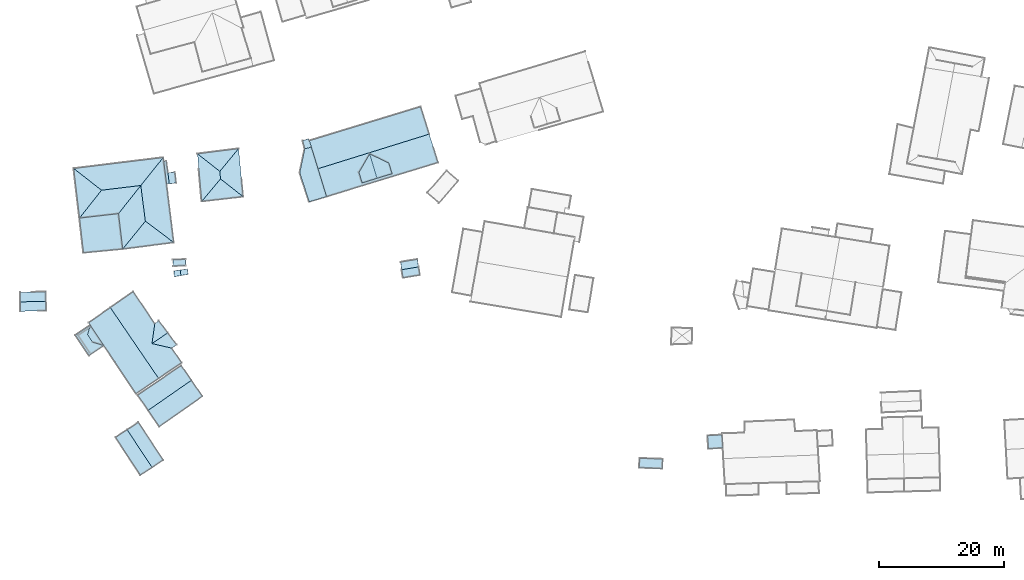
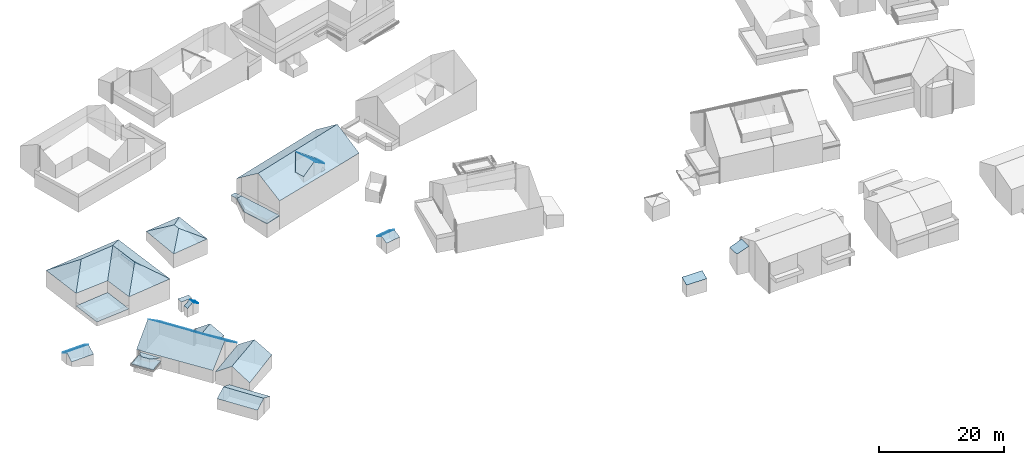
# Not in any storey, part 51 of 57: 77 roofs.
"""IFC2X3 building model written with IfcOpenShell, lengths in metres."""

import ifcopenshell
import ifcopenshell.guid

model = None  # the IFC model being written
_history = None  # IfcOwnerHistory: only IFC2X3 demands one
_inside = {}  # id of a spatial element -> (the spatial element, [elements in it])
_under = {}  # id of a project, library or spatial element -> (it, [spatial elements below it])
_declared = {}  # id of a project -> (the project, [libraries it declares])
_typed = {}  # id of a type object -> (the type object, [elements of that type])
_made_of = {}  # id of a material, layer set ... -> (it, [elements and type objects made of it])


def new_model(schema):
    """Start an empty IFC model of exactly this schema.

    Asked for "IFC4X3", IfcOpenShell would pick the latest addendum, in which some entities
    have other attributes; the version numbers below select the first issue.
    IFC2X3 requires an IfcOwnerHistory on every rooted entity: one is made here for all.
    """
    global model, _history
    if schema == "IFC4X3":
        model = ifcopenshell.file(schema_version=(4, 3, 0, 0))
    else:
        model = ifcopenshell.file(schema=schema)
    _inside.clear()
    _under.clear()
    _declared.clear()
    _typed.clear()
    _made_of.clear()
    _history = None
    if model.schema == "IFC2X3":
        org = make("IfcOrganization", Name="unknown")
        user = make(
            "IfcPersonAndOrganization",
            ThePerson=make("IfcPerson", FamilyName="unknown"),
            TheOrganization=org,
        )
        app = make(
            "IfcApplication",
            ApplicationDeveloper=org,
            Version="unknown",
            ApplicationFullName="unknown",
            ApplicationIdentifier="unknown",
        )
        _history = make(
            "IfcOwnerHistory",
            OwningUser=user,
            OwningApplication=app,
            ChangeAction="ADDED",
            CreationDate=0,
        )
    return model


def make(cls, **values):
    """One entity of the class cls with the attributes given. An attribute that is None is left unset."""
    return model.create_entity(
        cls, **{name: value for name, value in values.items() if value is not None}
    )


def entity(cls, *values):
    """Any entity or typed value of the class cls, its attributes in the order of the schema. None: left unset."""
    e = model.create_entity(cls)
    for i, value in enumerate(values):
        if value is not None:
            e[i] = value
    return e


def rooted(cls, **values):
    """An entity with a GlobalId (a new one), such as an element, a storey or a relation."""
    return make(cls, GlobalId=ifcopenshell.guid.new(), OwnerHistory=_history, **values)


def si_unit(unit_type, name, prefix=None):
    """IfcSIUnit, for example si_unit("LENGTHUNIT", "METRE", prefix="MILLI")."""
    return make("IfcSIUnit", UnitType=unit_type, Prefix=prefix, Name=name)


def converted_unit(unit_type, name, factor, base, dimensions=None, offset=None):
    """IfcConversionBasedUnit, such as the inch: factor (a typed value) times the base unit."""
    return make(
        "IfcConversionBasedUnit"
        if offset is None
        else "IfcConversionBasedUnitWithOffset",
        ConversionOffset=offset,
        Dimensions=None
        if dimensions is None
        else entity("IfcDimensionalExponents", *dimensions),
        UnitType=unit_type,
        Name=name,
        ConversionFactor=make(
            "IfcMeasureWithUnit", ValueComponent=factor, UnitComponent=base
        ),
    )


def assignment(units):
    """IfcUnitAssignment: the units of a project."""
    return None if units is None else make("IfcUnitAssignment", Units=units)


def point(xyz):
    """IfcCartesianPoint."""
    return None if xyz is None else make("IfcCartesianPoint", Coordinates=xyz)


def direction(xyz):
    """IfcDirection."""
    return None if xyz is None else make("IfcDirection", DirectionRatios=xyz)


def frame(location, z_axis=None, x_axis=None):
    """IfcAxis2Placement3D, a coordinate frame: its origin and axes. An axis left out is left unset."""
    return make(
        "IfcAxis2Placement3D",
        Location=point(location),
        Axis=direction(z_axis),
        RefDirection=direction(x_axis),
    )


def origin():
    """The frame at (0, 0, 0) with its axes left unset."""
    return frame((0.0, 0.0, 0.0))


def place(relative_to, where):
    """IfcLocalPlacement: puts the frame where relative to a parent placement (None: the world)."""
    return make(
        "IfcLocalPlacement", PlacementRelTo=relative_to, RelativePlacement=where
    )


def context(
    kind, dimensions, precision=None, world=None, true_north=None, identifier=None
):
    """IfcGeometricRepresentationContext, for example the 3D "Model" context."""
    return make(
        "IfcGeometricRepresentationContext",
        ContextIdentifier=identifier,
        ContextType=kind,
        CoordinateSpaceDimension=dimensions,
        Precision=precision,
        WorldCoordinateSystem=world,
        TrueNorth=true_north,
    )


def subcontext(parent, identifier, kind, view, scale=None):
    """IfcGeometricRepresentationSubContext, for example "Body" below "Model"."""
    return make(
        "IfcGeometricRepresentationSubContext",
        ContextIdentifier=identifier,
        ContextType=kind,
        ParentContext=parent,
        TargetScale=scale,
        TargetView=view,
    )


def project(units=None, contexts=None):
    """IfcProject with its units and contexts."""
    return rooted(
        "IfcProject",
        Name="project",
        RepresentationContexts=contexts,
        UnitsInContext=assignment(units),
    )


def spatial(cls, under=None, at=None, **own):
    """A site, building, storey or space (cls), placed at a placement, below another one or the project."""
    s = rooted(cls, ObjectPlacement=at, **own)
    if under is not None:
        _under.setdefault(under.id(), (under, []))[1].append(s)
    return s


def faces_of(points, faces, orient=None, outer=None):
    """IfcFace entities. A face is a list of loops; a loop is a list of indices into points, from 0.

    orient and outer hold one flag for each loop. By default every Orientation is true, the
    first loop of a face is its IfcFaceOuterBound and the others are IfcFaceBound.
    """
    made = []
    for i, loops in enumerate(faces):
        bounds = []
        for j, loop in enumerate(loops):
            is_outer = j == 0 if outer is None else outer[i][j]
            bounds.append(
                make(
                    "IfcFaceOuterBound" if is_outer else "IfcFaceBound",
                    Bound=make("IfcPolyLoop", Polygon=[points[k] for k in loop]),
                    Orientation=True if orient is None else orient[i][j],
                )
            )
        made.append(make("IfcFace", Bounds=bounds))
    return made


def face_set(faces, orient=None, outer=None):
    """The faces of one IfcConnectedFaceSet. surface_model builds it on its shared points."""
    return ("IfcConnectedFaceSet", faces, orient, outer)


def surface_model(cls, points, shells):
    """IfcFaceBasedSurfaceModel or IfcShellBasedSurfaceModel (cls): surfaces that need not close."""
    shared = [point(p) for p in points]
    made = [make(c, CfsFaces=faces_of(shared, fs, o, b)) for c, fs, o, b in shells]
    if cls == "IfcFaceBasedSurfaceModel":
        return make(cls, FbsmFaces=made)
    return make(cls, SbsmBoundary=made)


def shape(context_of_items, identifier, shape_type, items):
    """IfcShapeRepresentation: the items that make up one representation, for example the "Body"."""
    return make(
        "IfcShapeRepresentation",
        ContextOfItems=context_of_items,
        RepresentationIdentifier=identifier,
        RepresentationType=shape_type,
        Items=items,
    )


def made_of(thing, what):
    """Note that an element or type object is made of a material, layer set ...; save() writes the relation."""
    if what is not None:
        _made_of.setdefault(what.id(), (what, []))[1].append(thing)
    return thing


def element(
    cls,
    number,
    at=None,
    inside=None,
    cuts=None,
    type_object=None,
    material=None,
    context=None,
    identifier="Body",
    shape_type=None,
    held_by="IfcProductDefinitionShape",
    body=None,
    shapes=None,
    **own,
):
    """One element of the class cls, such as IfcWall. Its Tag is "e" and its number.

    at: its placement. inside: the storey or other place that contains it. cuts: it is an
    opening in that element (IfcRelVoidsElement). A single representation is given by context,
    identifier, shape_type and body (its items); several are given by shapes. held_by: the class
    of the entity that holds the representations. save() writes the other relations.
    """
    e = rooted(cls, Tag="e%d" % number, ObjectPlacement=at, **own)
    if body is not None:
        shapes = [shape(context, identifier, shape_type, body)]
    if shapes is not None:
        e.Representation = make(held_by, Representations=shapes)
    if inside is not None:
        _inside.setdefault(inside.id(), (inside, []))[1].append(e)
    if cuts is not None:
        rooted(
            "IfcRelVoidsElement", RelatingBuildingElement=cuts, RelatedOpeningElement=e
        )
    if type_object is not None:
        _typed.setdefault(type_object.id(), (type_object, []))[1].append(e)
    return made_of(e, material)


def aggregate(whole, parts):
    """IfcRelAggregates: a whole, such as a stair, and the parts it consists of."""
    return rooted("IfcRelAggregates", RelatingObject=whole, RelatedObjects=parts)


def save(model, path):
    """Write the relations noted so far, then the file.

    IfcRelAggregates (storeys below a building ...), IfcRelContainedInSpatialStructure (elements
    in a storey), IfcRelDefinesByType, IfcRelAssociatesMaterial and IfcRelDeclares: one each for
    every whole, place, type object, material and project.
    """
    for whole, parts in _under.values():
        aggregate(whole, parts)
    for where, things in _inside.values():
        rooted(
            "IfcRelContainedInSpatialStructure",
            RelatedElements=things,
            RelatingStructure=where,
        )
    for kind, things in _typed.values():
        rooted("IfcRelDefinesByType", RelatedObjects=things, RelatingType=kind)
    for what, things in _made_of.values():
        rooted("IfcRelAssociatesMaterial", RelatedObjects=things, RelatingMaterial=what)
    for by, libraries in _declared.values():
        rooted("IfcRelDeclares", RelatingContext=by, RelatedDefinitions=libraries)
    model.write(path)


model = new_model("IFC2X3")

# Units and contexts
model_context = context("Model", 3, precision=1e-05, world=origin())
body_context = subcontext(model_context, "Body", "Model", "MODEL_VIEW")
ifc_project = project(units=[converted_unit("PLANEANGLEUNIT", "DEGREE", entity("IfcRatioMeasure", 0.0174532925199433), si_unit("PLANEANGLEUNIT", "RADIAN"), dimensions=[0, 0, 0, 0, 0, 0, 0]), si_unit("AREAUNIT", "SQUARE_METRE"), si_unit("LENGTHUNIT", "METRE")], contexts=[model_context])

# Site, building
site_placement = place(None, origin())
site = spatial("IfcSite", under=ifc_project, at=site_placement, Name="_site", CompositionType="ELEMENT")
building_1_placement = place(site_placement, origin())
building_1 = spatial("IfcBuilding", under=site, at=building_1_placement, Name="_building", CompositionType="ELEMENT")

# Roofs
roof_1_placement = place(building_1_placement, origin())
element("IfcRoof", 1, at=roof_1_placement, inside=building_1, Name="Roof", ShapeType="NOTDEFINED", context=body_context, shape_type="SurfaceModel", body=[
    surface_model("IfcFaceBasedSurfaceModel", [(76.452, 88.018, 115.16), (76.487, 86.506, 114.25), (80.602, 86.62, 114.25), (80.557, 88.122, 115.16)], [face_set([[[0, 1, 2, 3]]])]),
])
roof_2_placement = place(building_1_placement, origin())
element("IfcRoof", 2, at=roof_2_placement, inside=building_1, Name="Roof", ShapeType="NOTDEFINED", context=body_context, shape_type="SurfaceModel", body=[
    surface_model("IfcFaceBasedSurfaceModel", [(80.557, 88.122, 115.16), (80.523, 89.644, 114.25), (76.408, 89.53, 114.25), (76.452, 88.018, 115.16)], [face_set([[[0, 1, 2, 3]]])]),
])
roof_3_placement = place(building_1_placement, origin())
element("IfcRoof", 3, at=roof_3_placement, inside=building_1, Name="Roof", ShapeType="NOTDEFINED", context=body_context, shape_type="SurfaceModel", body=[
    surface_model("IfcFaceBasedSurfaceModel", [(76.452, 88.018, 115.16), (76.487, 86.506, 114.25), (80.602, 86.62, 114.25), (80.557, 88.122, 115.16)], [face_set([[[0, 1, 2, 3]]])]),
])
roof_4_placement = place(building_1_placement, origin())
element("IfcRoof", 4, at=roof_4_placement, inside=building_1, Name="Roof", ShapeType="NOTDEFINED", context=body_context, shape_type="SurfaceModel", body=[
    surface_model("IfcFaceBasedSurfaceModel", [(80.557, 88.122, 115.16), (80.523, 89.644, 114.25), (76.408, 89.53, 114.25), (76.452, 88.018, 115.16)], [face_set([[[0, 1, 2, 3]]])]),
])

# Building
building_2_placement = place(site_placement, origin())
building_2 = spatial("IfcBuilding", under=site, at=building_2_placement, Name="_building", CompositionType="ELEMENT")

# Roofs
roof_5_placement = place(building_2_placement, origin())
element("IfcRoof", 5, at=roof_5_placement, inside=building_2, Name="Roof", ShapeType="NOTDEFINED", context=body_context, shape_type="SurfaceModel", body=[
    surface_model("IfcFaceBasedSurfaceModel", [(93.525, 67.596, 114.93), (91.675, 66.378, 113.98), (95.647, 60.361, 113.98), (97.497, 61.579, 114.93)], [face_set([[[0, 1, 2, 3]]])]),
])
roof_6_placement = place(building_2_placement, origin())
element("IfcRoof", 6, at=roof_6_placement, inside=building_2, Name="Roof", ShapeType="NOTDEFINED", context=body_context, shape_type="SurfaceModel", body=[
    surface_model("IfcFaceBasedSurfaceModel", [(97.497, 61.579, 114.93), (99.296, 62.768, 113.98), (95.324, 68.784, 113.98), (93.525, 67.596, 114.93)], [face_set([[[0, 1, 2, 3]]])]),
])
roof_7_placement = place(building_2_placement, origin())
element("IfcRoof", 7, at=roof_7_placement, inside=building_2, Name="Roof", ShapeType="NOTDEFINED", context=body_context, shape_type="SurfaceModel", body=[
    surface_model("IfcFaceBasedSurfaceModel", [(93.525, 67.596, 114.93), (91.675, 66.378, 113.98), (95.647, 60.361, 113.98), (97.497, 61.579, 114.93)], [face_set([[[0, 1, 2, 3]]])]),
])
roof_8_placement = place(building_2_placement, origin())
element("IfcRoof", 8, at=roof_8_placement, inside=building_2, Name="Roof", ShapeType="NOTDEFINED", context=body_context, shape_type="SurfaceModel", body=[
    surface_model("IfcFaceBasedSurfaceModel", [(97.497, 61.579, 114.93), (99.296, 62.768, 113.98), (95.324, 68.784, 113.98), (93.525, 67.596, 114.93)], [face_set([[[0, 1, 2, 3]]])]),
])

# Building
building_3_placement = place(site_placement, origin())
building_3 = spatial("IfcBuilding", under=site, at=building_3_placement, Name="_building", CompositionType="ELEMENT")

# Roofs
for number, where, name in (
    (9, (0.0, 0.0, 0.0), "Roof"),
    (10, (0.0, 0.0, 0.0), "Roof"),
):
    element("IfcRoof", number, at=place(building_3_placement, frame(where)), inside=building_3, Name=name, ShapeType="NOTDEFINED", context=body_context, shape_type="SurfaceModel", body=[
        surface_model("IfcFaceBasedSurfaceModel", [(100.861, 93.72, 113.01), (102.874, 93.813, 113.01), (102.847, 94.805, 113.01), (100.815, 94.762, 113.01)], [face_set([[[0, 1, 2, 3]]])]),
    ])

# Building
building_4_placement = place(site_placement, origin())
building_4 = spatial("IfcBuilding", under=site, at=building_4_placement, Name="_building", CompositionType="ELEMENT")

# Roofs
roof_9_placement = place(building_4_placement, origin())
element("IfcRoof", 11, at=roof_9_placement, inside=building_4, Name="Roof", ShapeType="NOTDEFINED", context=body_context, shape_type="SurfaceModel", body=[
    surface_model("IfcFaceBasedSurfaceModel", [(121.882, 112.46, 114.43), (122.94, 112.745, 114.43), (122.623, 113.763, 114.36), (122.501, 114.087, 114.36), (121.553, 113.779, 114.39)], [face_set([[[0, 1, 2, 3, 4]]])]),
])
roof_10_placement = place(building_4_placement, origin())
element("IfcRoof", 12, at=roof_10_placement, inside=building_4, Name="Roof", ShapeType="NOTDEFINED", context=body_context, shape_type="SurfaceModel", body=[
    surface_model("IfcFaceBasedSurfaceModel", [(132.25, 111.657, 120.386), (130.54, 108.705, 118.8), (131.051, 107.022, 118.8), (133.419, 107.757, 120.39)], [face_set([[[0, 1, 2, 3]]])]),
])
roof_11_placement = place(building_4_placement, origin())
element("IfcRoof", 13, at=roof_11_placement, inside=building_4, Name="Roof", ShapeType="NOTDEFINED", context=body_context, shape_type="SurfaceModel", body=[
    surface_model("IfcFaceBasedSurfaceModel", [(124.001, 109.289, 120.52), (125.376, 104.833, 117.37), (143.174, 110.28, 117.15), (141.77, 114.816, 120.52)], [face_set([[[0, 1, 2, 3]]])]),
])
roof_12_placement = place(building_4_placement, origin())
element("IfcRoof", 14, at=roof_12_placement, inside=building_4, Name="Roof", ShapeType="NOTDEFINED", context=body_context, shape_type="SurfaceModel", body=[
    surface_model("IfcFaceBasedSurfaceModel", [(141.77, 114.816, 120.52), (140.401, 119.191, 117.29), (122.623, 113.763, 117.28), (122.94, 112.745, 118.02), (124.001, 109.289, 120.52)], [face_set([[[0, 1, 2, 3, 4]]])]),
])
roof_13_placement = place(building_4_placement, origin())
element("IfcRoof", 15, at=roof_13_placement, inside=building_4, Name="Roof", ShapeType="NOTDEFINED", context=body_context, shape_type="SurfaceModel", body=[
    surface_model("IfcFaceBasedSurfaceModel", [(121.882, 112.46, 114.43), (122.94, 112.745, 114.43), (122.623, 113.763, 114.36), (122.501, 114.087, 114.36), (121.553, 113.779, 114.39)], [face_set([[[0, 1, 2, 3, 4]]])]),
])
roof_14_placement = place(building_4_placement, origin())
element("IfcRoof", 16, at=roof_14_placement, inside=building_4, Name="Roof", ShapeType="NOTDEFINED", context=body_context, shape_type="SurfaceModel", body=[
    surface_model("IfcFaceBasedSurfaceModel", [(141.77, 114.816, 120.52), (140.401, 119.191, 117.29), (122.623, 113.763, 117.28), (122.94, 112.745, 118.02), (124.001, 109.289, 120.52)], [face_set([[[0, 1, 2, 3, 4]]])]),
])
roof_15_placement = place(building_4_placement, origin())
element("IfcRoof", 17, at=roof_15_placement, inside=building_4, Name="Roof", ShapeType="NOTDEFINED", context=body_context, shape_type="SurfaceModel", body=[
    surface_model("IfcFaceBasedSurfaceModel", [(124.001, 109.289, 120.52), (125.376, 104.833, 117.37), (143.174, 110.28, 117.15), (141.77, 114.816, 120.52)], [face_set([[[0, 1, 2, 3]]])]),
])
roof_16_placement = place(building_4_placement, origin())
element("IfcRoof", 18, at=roof_16_placement, inside=building_4, Name="Roof", ShapeType="NOTDEFINED", context=body_context, shape_type="SurfaceModel", body=[
    surface_model("IfcFaceBasedSurfaceModel", [(132.25, 111.657, 120.386), (130.54, 108.705, 118.8), (131.051, 107.022, 118.8), (133.419, 107.757, 120.39)], [face_set([[[0, 1, 2, 3]]])]),
])
roof_17_placement = place(building_4_placement, origin())
element("IfcRoof", 19, at=roof_17_placement, inside=building_4, Name="Roof", ShapeType="NOTDEFINED", context=body_context, shape_type="SurfaceModel", body=[
    surface_model("IfcFaceBasedSurfaceModel", [(132.25, 111.657, 120.386), (133.419, 107.757, 120.39), (135.828, 108.491, 118.78), (135.318, 110.194, 118.793)], [face_set([[[0, 1, 2, 3]]])]),
])
roof_18_placement = place(building_4_placement, origin())
element("IfcRoof", 20, at=roof_18_placement, inside=building_4, Name="Roof", ShapeType="NOTDEFINED", context=body_context, shape_type="SurfaceModel", body=[
    surface_model("IfcFaceBasedSurfaceModel", [(133.419, 107.757, 117.57), (135.828, 108.491, 117.558), (135.318, 110.194, 118.793), (132.25, 111.657, 120.399), (130.54, 108.705, 118.796), (131.051, 107.022, 117.574)], [face_set([[[0, 1, 2, 3, 4, 5]]])]),
])
roof_19_placement = place(building_4_placement, origin())
element("IfcRoof", 21, at=roof_19_placement, inside=building_4, Name="Roof", ShapeType="NOTDEFINED", context=body_context, shape_type="SurfaceModel", body=[
    surface_model("IfcFaceBasedSurfaceModel", [(132.25, 111.657, 120.386), (133.419, 107.757, 120.39), (135.828, 108.491, 118.78), (135.318, 110.194, 118.793)], [face_set([[[0, 1, 2, 3]]])]),
])

# Building
building_5_placement = place(site_placement, origin())
building_5 = spatial("IfcBuilding", under=site, at=building_5_placement, Name="_building", CompositionType="ELEMENT")

# Roofs
roof_20_placement = place(building_5_placement, origin())
element("IfcRoof", 22, at=roof_20_placement, inside=building_5, Name="Roof", ShapeType="NOTDEFINED", context=body_context, shape_type="SurfaceModel", body=[
    surface_model("IfcFaceBasedSurfaceModel", [(124.001, 109.289, 114.491), (122.94, 112.745, 114.43), (121.882, 112.46, 114.43), (121.083, 108.666, 114.43), (122.585, 103.998, 114.45), (125.376, 104.833, 114.57)], [face_set([[[0, 1, 2, 3, 4, 5]]])]),
])
for number, where, name in (
    (23, (0.0, 0.0, 0.0), "Roof"),
    (24, (0.0, 0.0, 0.0), "Roof"),
):
    element("IfcRoof", number, at=place(building_5_placement, frame(where)), inside=building_5, Name=name, ShapeType="NOTDEFINED", context=body_context, shape_type="SurfaceModel", body=[
        surface_model("IfcFaceBasedSurfaceModel", [(125.376, 104.833, 114.36), (124.001, 109.289, 114.36), (122.94, 112.745, 114.36), (121.882, 112.46, 114.36), (121.083, 108.666, 114.36), (122.585, 103.998, 114.36)], [face_set([[[0, 1, 2, 3, 4, 5]]])]),
    ])
roof_21_placement = place(building_5_placement, origin())
element("IfcRoof", 25, at=roof_21_placement, inside=building_5, Name="Roof", ShapeType="NOTDEFINED", context=body_context, shape_type="SurfaceModel", body=[
    surface_model("IfcFaceBasedSurfaceModel", [(124.001, 109.289, 114.491), (122.94, 112.745, 114.43), (121.882, 112.46, 114.43), (121.083, 108.666, 114.43), (122.585, 103.998, 114.45), (125.376, 104.833, 114.57)], [face_set([[[0, 1, 2, 3, 4, 5]]])]),
])

# Building
building_6_placement = place(site_placement, origin())
building_6 = spatial("IfcBuilding", under=site, at=building_6_placement, Name="_building", CompositionType="ELEMENT")

# Roofs
for number, where, name in (
    (26, (0.0, 0.0, 0.0), "Roof"),
    (27, (0.0, 0.0, 0.0), "Roof"),
):
    element("IfcRoof", number, at=place(building_6_placement, frame(where)), inside=building_6, Name=name, ShapeType="NOTDEFINED", context=body_context, shape_type="SurfaceModel", body=[
        surface_model("IfcFaceBasedSurfaceModel", [(175.283, 61.519, 109.73), (178.993, 61.402, 109.81), (179.029, 62.922, 110.44), (175.389, 63.048, 110.37)], [face_set([[[0, 1, 2, 3]]])]),
    ])

# Building
building_7_placement = place(site_placement, origin())
building_7 = spatial("IfcBuilding", under=site, at=building_7_placement, Name="_building", CompositionType="ELEMENT")

# Roofs
roof_22_placement = place(building_7_placement, origin())
element("IfcRoof", 28, at=roof_22_placement, inside=building_7, Name="Roof", ShapeType="NOTDEFINED", context=body_context, shape_type="SurfaceModel", body=[
    surface_model("IfcFaceBasedSurfaceModel", [(137.37, 93.166, 113.38), (137.58, 91.87, 112.7), (140.282, 92.307, 112.7), (140.072, 93.603, 113.38)], [face_set([[[0, 1, 2, 3]]])]),
])
roof_23_placement = place(building_7_placement, origin())
element("IfcRoof", 29, at=roof_23_placement, inside=building_7, Name="Roof", ShapeType="NOTDEFINED", context=body_context, shape_type="SurfaceModel", body=[
    surface_model("IfcFaceBasedSurfaceModel", [(140.072, 93.603, 113.38), (139.871, 94.828, 112.7), (137.179, 94.381, 112.7), (137.37, 93.166, 113.38)], [face_set([[[0, 1, 2, 3]]])]),
])
roof_24_placement = place(building_7_placement, origin())
element("IfcRoof", 30, at=roof_24_placement, inside=building_7, Name="Roof", ShapeType="NOTDEFINED", context=body_context, shape_type="SurfaceModel", body=[
    surface_model("IfcFaceBasedSurfaceModel", [(137.37, 93.166, 113.38), (137.58, 91.87, 112.7), (140.282, 92.307, 112.7), (140.072, 93.603, 113.38)], [face_set([[[0, 1, 2, 3]]])]),
])
roof_25_placement = place(building_7_placement, origin())
element("IfcRoof", 31, at=roof_25_placement, inside=building_7, Name="Roof", ShapeType="NOTDEFINED", context=body_context, shape_type="SurfaceModel", body=[
    surface_model("IfcFaceBasedSurfaceModel", [(140.072, 93.603, 113.38), (139.871, 94.828, 112.7), (137.179, 94.381, 112.7), (137.37, 93.166, 113.38)], [face_set([[[0, 1, 2, 3]]])]),
])

# Building
building_8_placement = place(site_placement, origin())
building_8 = spatial("IfcBuilding", under=site, at=building_8_placement, Name="_building", CompositionType="ELEMENT")

# Roofs
roof_26_placement = place(building_8_placement, origin())
element("IfcRoof", 32, at=roof_26_placement, inside=building_8, Name="Roof", ShapeType="NOTDEFINED", context=body_context, shape_type="SurfaceModel", body=[
    surface_model("IfcFaceBasedSurfaceModel", [(96.89, 70.709, 115.81), (98.67, 68.106, 113.56), (105.548, 72.948, 113.7), (103.786, 75.501, 115.71)], [face_set([[[0, 1, 2, 3]]])]),
])
roof_27_placement = place(building_8_placement, origin())
element("IfcRoof", 33, at=roof_27_placement, inside=building_8, Name="Roof", ShapeType="NOTDEFINED", context=body_context, shape_type="SurfaceModel", body=[
    surface_model("IfcFaceBasedSurfaceModel", [(103.786, 75.501, 115.71), (102.17, 77.85, 113.93), (95.225, 73.129, 113.84), (96.89, 70.709, 115.81)], [face_set([[[0, 1, 2, 3]]])]),
])
roof_28_placement = place(building_8_placement, origin())
element("IfcRoof", 34, at=roof_28_placement, inside=building_8, Name="Roof", ShapeType="NOTDEFINED", context=body_context, shape_type="SurfaceModel", body=[
    surface_model("IfcFaceBasedSurfaceModel", [(96.89, 70.709, 115.81), (98.67, 68.106, 113.56), (105.548, 72.948, 113.7), (103.786, 75.501, 115.71)], [face_set([[[0, 1, 2, 3]]])]),
])
roof_29_placement = place(building_8_placement, origin())
element("IfcRoof", 35, at=roof_29_placement, inside=building_8, Name="Roof", ShapeType="NOTDEFINED", context=body_context, shape_type="SurfaceModel", body=[
    surface_model("IfcFaceBasedSurfaceModel", [(103.786, 75.501, 115.71), (102.17, 77.85, 113.93), (95.225, 73.129, 113.84), (96.89, 70.709, 115.81)], [face_set([[[0, 1, 2, 3]]])]),
])

# Building
building_9_placement = place(site_placement, origin())
building_9 = spatial("IfcBuilding", under=site, at=building_9_placement, Name="_building", CompositionType="ELEMENT")

# Roofs
roof_30_placement = place(building_9_placement, origin())
element("IfcRoof", 36, at=roof_30_placement, inside=building_9, Name="Roof", ShapeType="NOTDEFINED", context=body_context, shape_type="SurfaceModel", body=[
    surface_model("IfcFaceBasedSurfaceModel", [(112.047, 104.815, 114.65), (111.317, 112.507, 114.53), (108.32, 108.865, 116.24), (108.432, 107.662, 116.25)], [face_set([[[0, 1, 2, 3]]])]),
])
roof_31_placement = place(building_9_placement, origin())
element("IfcRoof", 37, at=roof_31_placement, inside=building_9, Name="Roof", ShapeType="NOTDEFINED", context=body_context, shape_type="SurfaceModel", body=[
    surface_model("IfcFaceBasedSurfaceModel", [(108.32, 108.865, 116.24), (111.317, 112.507, 114.53), (104.753, 111.67, 114.54)], [face_set([[[0, 1, 2]]])]),
])
roof_32_placement = place(building_9_placement, origin())
element("IfcRoof", 38, at=roof_32_placement, inside=building_9, Name="Roof", ShapeType="NOTDEFINED", context=body_context, shape_type="SurfaceModel", body=[
    surface_model("IfcFaceBasedSurfaceModel", [(104.753, 111.67, 114.54), (105.426, 104.06, 114.5), (108.432, 107.662, 116.25), (108.32, 108.865, 116.24)], [face_set([[[0, 1, 2, 3]]])]),
])
roof_33_placement = place(building_9_placement, origin())
element("IfcRoof", 39, at=roof_33_placement, inside=building_9, Name="Roof", ShapeType="NOTDEFINED", context=body_context, shape_type="SurfaceModel", body=[
    surface_model("IfcFaceBasedSurfaceModel", [(112.047, 104.815, 114.65), (111.317, 112.507, 114.53), (108.32, 108.865, 116.24), (108.432, 107.662, 116.25)], [face_set([[[0, 1, 2, 3]]])]),
])
roof_34_placement = place(building_9_placement, origin())
element("IfcRoof", 40, at=roof_34_placement, inside=building_9, Name="Roof", ShapeType="NOTDEFINED", context=body_context, shape_type="SurfaceModel", body=[
    surface_model("IfcFaceBasedSurfaceModel", [(108.32, 108.865, 116.24), (111.317, 112.507, 114.53), (104.753, 111.67, 114.54)], [face_set([[[0, 1, 2]]])]),
])
roof_35_placement = place(building_9_placement, origin())
element("IfcRoof", 41, at=roof_35_placement, inside=building_9, Name="Roof", ShapeType="NOTDEFINED", context=body_context, shape_type="SurfaceModel", body=[
    surface_model("IfcFaceBasedSurfaceModel", [(104.753, 111.67, 114.54), (105.426, 104.06, 114.5), (108.432, 107.662, 116.25), (108.32, 108.865, 116.24)], [face_set([[[0, 1, 2, 3]]])]),
])
for number, where, name in (
    (42, (0.0, 0.0, 0.0), "Roof"),
    (43, (0.0, 0.0, 0.0), "Roof"),
):
    element("IfcRoof", number, at=place(building_9_placement, frame(where)), inside=building_9, Name=name, ShapeType="NOTDEFINED", context=body_context, shape_type="SurfaceModel", body=[
        surface_model("IfcFaceBasedSurfaceModel", [(108.432, 107.662, 116.25), (105.426, 104.06, 114.5), (112.047, 104.815, 114.65)], [face_set([[[0, 1, 2]]])]),
    ])

# Building
building_10_placement = place(site_placement, origin())
building_10 = spatial("IfcBuilding", under=site, at=building_10_placement, Name="_building", CompositionType="ELEMENT")

# Roofs
for number, where, name in (
    (44, (0.0, 0.0, 0.0), "Roof"),
    (45, (0.0, 0.0, 0.0), "Roof"),
):
    element("IfcRoof", number, at=place(building_10_placement, frame(where)), inside=building_10, Name=name, ShapeType="NOTDEFINED", context=body_context, shape_type="SurfaceModel", body=[
        surface_model("IfcFaceBasedSurfaceModel", [(102.116, 92.22, 113.4), (103.272, 92.413, 112.68), (103.142, 93.277, 112.68), (101.977, 93.114, 113.4)], [face_set([[[0, 1, 2, 3]]])]),
    ])
for number, where, name in (
    (46, (0.0, 0.0, 0.0), "Roof"),
    (47, (0.0, 0.0, 0.0), "Roof"),
):
    element("IfcRoof", number, at=place(building_10_placement, frame(where)), inside=building_10, Name=name, ShapeType="NOTDEFINED", context=body_context, shape_type="SurfaceModel", body=[
        surface_model("IfcFaceBasedSurfaceModel", [(101.977, 93.114, 113.4), (100.953, 92.967, 112.68), (101.031, 92.035, 112.69), (102.116, 92.22, 113.4)], [face_set([[[0, 1, 2, 3]]])]),
    ])

# Building
building_11_placement = place(site_placement, origin())
building_11 = spatial("IfcBuilding", under=site, at=building_11_placement, Name="_building", CompositionType="ELEMENT")

# Roofs
roof_36_placement = place(building_11_placement, origin())
element("IfcRoof", 48, at=roof_36_placement, inside=building_11, Name="Roof", ShapeType="NOTDEFINED", context=body_context, shape_type="SurfaceModel", body=[
    surface_model("IfcFaceBasedSurfaceModel", [(89.807, 81.051, 113.09), (87.632, 84.304, 113.09), (85.253, 82.709, 113.09), (87.429, 79.456, 113.09)], [face_set([[[0, 1, 2, 3]]])]),
])
roof_37_placement = place(building_11_placement, origin())
element("IfcRoof", 49, at=roof_37_placement, inside=building_11, Name="Roof", ShapeType="NOTDEFINED", context=body_context, shape_type="SurfaceModel", body=[
    surface_model("IfcFaceBasedSurfaceModel", [(87.785, 84.079, 113.659), (87.519, 83.901, 113.659), (87.207, 82.793, 113.76), (88.029, 81.573, 113.76), (89.811, 81.05, 113.659)], [face_set([[[0, 1, 2, 3, 4]]])]),
])
roof_38_placement = place(building_11_placement, origin())
element("IfcRoof", 50, at=roof_38_placement, inside=building_11, Name="Roof", ShapeType="NOTDEFINED", context=body_context, shape_type="SurfaceModel", body=[
    surface_model("IfcFaceBasedSurfaceModel", [(89.807, 81.051, 113.09), (87.632, 84.304, 113.09), (85.253, 82.709, 113.09), (87.429, 79.456, 113.09)], [face_set([[[0, 1, 2, 3]]])]),
])
roof_39_placement = place(building_11_placement, origin())
element("IfcRoof", 51, at=roof_39_placement, inside=building_11, Name="Roof", ShapeType="NOTDEFINED", context=body_context, shape_type="SurfaceModel", body=[
    surface_model("IfcFaceBasedSurfaceModel", [(87.785, 84.079, 113.659), (87.519, 83.901, 113.659), (87.207, 82.793, 113.76), (88.029, 81.573, 113.76), (89.811, 81.05, 113.659)], [face_set([[[0, 1, 2, 3, 4]]])]),
])

# Building
building_12_placement = place(site_placement, origin())
building_12 = spatial("IfcBuilding", under=site, at=building_12_placement, Name="_building", CompositionType="ELEMENT")

# Roofs
for number, where, name in (
    (52, (0.0, 0.0, 0.0), "Roof"),
    (53, (0.0, 0.0, 0.0), "Roof"),
):
    element("IfcRoof", number, at=place(building_12_placement, frame(where)), inside=building_12, Name=name, ShapeType="NOTDEFINED", context=body_context, shape_type="SurfaceModel", body=[
        surface_model("IfcFaceBasedSurfaceModel", [(188.656, 64.698, 110.74), (188.535, 66.802, 110.92), (186.221, 66.667, 110.16), (186.341, 64.562, 110.06)], [face_set([[[0, 1, 2, 3]]])]),
    ])

# Building
building_13_placement = place(site_placement, origin())
building_13 = spatial("IfcBuilding", under=site, at=building_13_placement, Name="_building", CompositionType="ELEMENT")

# Roofs
roof_40_placement = place(building_13_placement, origin())
element("IfcRoof", 54, at=roof_40_placement, inside=building_13, Name="Roof", ShapeType="NOTDEFINED", context=body_context, shape_type="SurfaceModel", body=[
    surface_model("IfcFaceBasedSurfaceModel", [(85.911, 101.405, 115.27), (92.142, 102.12, 115.12), (95.699, 106.609, 118.02), (89.428, 105.855, 118.0)], [face_set([[[0, 1, 2, 3]]])]),
])
roof_41_placement = place(building_13_placement, origin())
element("IfcRoof", 55, at=roof_41_placement, inside=building_13, Name="Roof", ShapeType="NOTDEFINED", context=body_context, shape_type="SurfaceModel", body=[
    surface_model("IfcFaceBasedSurfaceModel", [(89.428, 105.855, 118.0), (95.699, 106.609, 118.02), (99.286, 111.078, 115.18), (84.976, 109.332, 115.27)], [face_set([[[0, 1, 2, 3]]])]),
])
roof_42_placement = place(building_13_placement, origin())
element("IfcRoof", 56, at=roof_42_placement, inside=building_13, Name="Roof", ShapeType="NOTDEFINED", context=body_context, shape_type="SurfaceModel", body=[
    surface_model("IfcFaceBasedSurfaceModel", [(92.142, 102.12, 115.12), (92.81, 96.46, 115.18), (96.426, 100.908, 118.02), (95.699, 106.609, 118.02)], [face_set([[[0, 1, 2, 3]]])]),
])
roof_43_placement = place(building_13_placement, origin())
element("IfcRoof", 57, at=roof_43_placement, inside=building_13, Name="Roof", ShapeType="NOTDEFINED", context=body_context, shape_type="SurfaceModel", body=[
    surface_model("IfcFaceBasedSurfaceModel", [(101.143, 108.753, 111.65), (100.029, 108.619, 112.69), (99.793, 110.496, 112.69), (99.361, 110.436, 112.69), (99.817, 106.823, 112.69), (100.248, 106.873, 112.69), (101.352, 107.007, 111.65)], [face_set([[[0, 1, 2, 3, 4, 5, 6]]])]),
])
roof_44_placement = place(building_13_placement, origin())
element("IfcRoof", 58, at=roof_44_placement, inside=building_13, Name="Roof", ShapeType="NOTDEFINED", context=body_context, shape_type="SurfaceModel", body=[
    surface_model("IfcFaceBasedSurfaceModel", [(89.428, 105.855, 118.0), (84.976, 109.332, 115.27), (85.911, 101.405, 115.27)], [face_set([[[0, 1, 2]]])]),
])
roof_45_placement = place(building_13_placement, origin())
element("IfcRoof", 59, at=roof_45_placement, inside=building_13, Name="Roof", ShapeType="NOTDEFINED", context=body_context, shape_type="SurfaceModel", body=[
    surface_model("IfcFaceBasedSurfaceModel", [(100.969, 97.5, 115.18), (99.286, 111.078, 115.18), (95.699, 106.609, 118.02), (96.426, 100.908, 118.02)], [face_set([[[0, 1, 2, 3]]])]),
])
roof_46_placement = place(building_13_placement, origin())
element("IfcRoof", 60, at=roof_46_placement, inside=building_13, Name="Roof", ShapeType="NOTDEFINED", context=body_context, shape_type="SurfaceModel", body=[
    surface_model("IfcFaceBasedSurfaceModel", [(96.426, 100.908, 118.02), (92.81, 96.46, 115.18), (100.969, 97.5, 115.18)], [face_set([[[0, 1, 2]]])]),
])
roof_47_placement = place(building_13_placement, origin())
element("IfcRoof", 61, at=roof_47_placement, inside=building_13, Name="Roof", ShapeType="NOTDEFINED", context=body_context, shape_type="SurfaceModel", body=[
    surface_model("IfcFaceBasedSurfaceModel", [(85.911, 101.405, 115.27), (92.142, 102.12, 115.12), (95.699, 106.609, 118.02), (89.428, 105.855, 118.0)], [face_set([[[0, 1, 2, 3]]])]),
])
roof_48_placement = place(building_13_placement, origin())
element("IfcRoof", 62, at=roof_48_placement, inside=building_13, Name="Roof", ShapeType="NOTDEFINED", context=body_context, shape_type="SurfaceModel", body=[
    surface_model("IfcFaceBasedSurfaceModel", [(100.969, 97.5, 115.18), (99.286, 111.078, 115.18), (95.699, 106.609, 118.02), (96.426, 100.908, 118.02)], [face_set([[[0, 1, 2, 3]]])]),
])
roof_49_placement = place(building_13_placement, origin())
element("IfcRoof", 63, at=roof_49_placement, inside=building_13, Name="Roof", ShapeType="NOTDEFINED", context=body_context, shape_type="SurfaceModel", body=[
    surface_model("IfcFaceBasedSurfaceModel", [(89.428, 105.855, 118.0), (95.699, 106.609, 118.02), (99.286, 111.078, 115.18), (84.976, 109.332, 115.27)], [face_set([[[0, 1, 2, 3]]])]),
])
roof_50_placement = place(building_13_placement, origin())
element("IfcRoof", 64, at=roof_50_placement, inside=building_13, Name="Roof", ShapeType="NOTDEFINED", context=body_context, shape_type="SurfaceModel", body=[
    surface_model("IfcFaceBasedSurfaceModel", [(101.143, 108.753, 111.65), (100.029, 108.619, 112.69), (99.793, 110.496, 112.69), (99.361, 110.436, 112.69), (99.817, 106.823, 112.69), (100.248, 106.873, 112.69), (101.352, 107.007, 111.65)], [face_set([[[0, 1, 2, 3, 4, 5, 6]]])]),
])
roof_51_placement = place(building_13_placement, origin())
element("IfcRoof", 65, at=roof_51_placement, inside=building_13, Name="Roof", ShapeType="NOTDEFINED", context=body_context, shape_type="SurfaceModel", body=[
    surface_model("IfcFaceBasedSurfaceModel", [(89.428, 105.855, 118.0), (84.976, 109.332, 115.27), (85.911, 101.405, 115.27)], [face_set([[[0, 1, 2]]])]),
])
roof_52_placement = place(building_13_placement, origin())
element("IfcRoof", 66, at=roof_52_placement, inside=building_13, Name="Roof", ShapeType="NOTDEFINED", context=body_context, shape_type="SurfaceModel", body=[
    surface_model("IfcFaceBasedSurfaceModel", [(92.142, 102.12, 115.12), (92.81, 96.46, 115.18), (96.426, 100.908, 118.02), (95.699, 106.609, 118.02)], [face_set([[[0, 1, 2, 3]]])]),
])
for number, where, name in (
    (67, (0.0, 0.0, 0.0), "Roof"),
    (68, (0.0, 0.0, 0.0), "Roof"),
):
    element("IfcRoof", number, at=place(building_13_placement, frame(where)), inside=building_13, Name=name, ShapeType="NOTDEFINED", context=body_context, shape_type="SurfaceModel", body=[
        surface_model("IfcFaceBasedSurfaceModel", [(92.81, 96.46, 112.83), (92.142, 102.12, 112.83), (85.911, 101.405, 112.83), (86.542, 95.857, 112.83)], [face_set([[[0, 1, 2, 3]]])]),
    ])
roof_53_placement = place(building_13_placement, origin())
element("IfcRoof", 69, at=roof_53_placement, inside=building_13, Name="Roof", ShapeType="NOTDEFINED", context=body_context, shape_type="SurfaceModel", body=[
    surface_model("IfcFaceBasedSurfaceModel", [(96.426, 100.908, 118.02), (92.81, 96.46, 115.18), (100.969, 97.5, 115.18)], [face_set([[[0, 1, 2]]])]),
])

# Building
building_14_placement = place(site_placement, origin())
building_14 = spatial("IfcBuilding", under=site, at=building_14_placement, Name="_building", CompositionType="ELEMENT")

# Roofs
roof_54_placement = place(building_14_placement, origin())
element("IfcRoof", 70, at=roof_54_placement, inside=building_14, Name="Roof", ShapeType="NOTDEFINED", context=body_context, shape_type="SurfaceModel", body=[
    surface_model("IfcFaceBasedSurfaceModel", [(98.54, 75.803, 117.13), (102.231, 78.299, 113.97), (100.654, 80.627, 113.95), (97.48, 81.362, 115.53), (97.934, 84.533, 113.95), (94.502, 89.656, 113.95), (90.84, 87.101, 117.13)], [face_set([[[0, 1, 2, 3, 4, 5, 6]]])]),
])
roof_55_placement = place(building_14_placement, origin())
element("IfcRoof", 71, at=roof_55_placement, inside=building_14, Name="Roof", ShapeType="NOTDEFINED", context=body_context, shape_type="SurfaceModel", body=[
    surface_model("IfcFaceBasedSurfaceModel", [(97.48, 81.362, 115.53), (100.011, 83.083, 115.53), (98.566, 85.029, 113.95), (97.934, 84.533, 113.95)], [face_set([[[0, 1, 2, 3]]])]),
])
roof_56_placement = place(building_14_placement, origin())
element("IfcRoof", 72, at=roof_56_placement, inside=building_14, Name="Roof", ShapeType="NOTDEFINED", context=body_context, shape_type="SurfaceModel", body=[
    surface_model("IfcFaceBasedSurfaceModel", [(97.48, 81.362, 115.53), (100.654, 80.627, 113.95), (101.437, 81.159, 113.95), (100.011, 83.083, 115.53)], [face_set([[[0, 1, 2, 3]]])]),
])
roof_57_placement = place(building_14_placement, origin())
element("IfcRoof", 73, at=roof_57_placement, inside=building_14, Name="Roof", ShapeType="NOTDEFINED", context=body_context, shape_type="SurfaceModel", body=[
    surface_model("IfcFaceBasedSurfaceModel", [(90.84, 87.101, 117.13), (87.381, 84.68, 113.95), (87.632, 84.305, 113.954), (87.785, 84.079, 113.957), (89.811, 81.05, 113.992), (91.595, 78.388, 114.022), (94.951, 73.376, 114.08), (98.54, 75.803, 117.13)], [face_set([[[0, 1, 2, 3, 4, 5, 6, 7]]])]),
])
roof_58_placement = place(building_14_placement, origin())
element("IfcRoof", 74, at=roof_58_placement, inside=building_14, Name="Roof", ShapeType="NOTDEFINED", context=body_context, shape_type="SurfaceModel", body=[
    surface_model("IfcFaceBasedSurfaceModel", [(98.54, 75.803, 117.13), (102.231, 78.299, 113.97), (100.654, 80.627, 113.95), (97.48, 81.362, 115.53), (97.934, 84.533, 113.95), (94.502, 89.656, 113.95), (90.84, 87.101, 117.13)], [face_set([[[0, 1, 2, 3, 4, 5, 6]]])]),
])
roof_59_placement = place(building_14_placement, origin())
element("IfcRoof", 75, at=roof_59_placement, inside=building_14, Name="Roof", ShapeType="NOTDEFINED", context=body_context, shape_type="SurfaceModel", body=[
    surface_model("IfcFaceBasedSurfaceModel", [(97.48, 81.362, 115.53), (100.011, 83.083, 115.53), (98.566, 85.029, 113.95), (97.934, 84.533, 113.95)], [face_set([[[0, 1, 2, 3]]])]),
])
roof_60_placement = place(building_14_placement, origin())
element("IfcRoof", 76, at=roof_60_placement, inside=building_14, Name="Roof", ShapeType="NOTDEFINED", context=body_context, shape_type="SurfaceModel", body=[
    surface_model("IfcFaceBasedSurfaceModel", [(97.48, 81.362, 115.53), (100.654, 80.627, 113.95), (101.437, 81.159, 113.95), (100.011, 83.083, 115.53)], [face_set([[[0, 1, 2, 3]]])]),
])
roof_61_placement = place(building_14_placement, origin())
element("IfcRoof", 77, at=roof_61_placement, inside=building_14, Name="Roof", ShapeType="NOTDEFINED", context=body_context, shape_type="SurfaceModel", body=[
    surface_model("IfcFaceBasedSurfaceModel", [(90.84, 87.101, 117.13), (87.381, 84.68, 113.95), (87.632, 84.305, 113.954), (87.785, 84.079, 113.957), (89.811, 81.05, 113.992), (91.595, 78.388, 114.022), (94.951, 73.376, 114.08), (98.54, 75.803, 117.13)], [face_set([[[0, 1, 2, 3, 4, 5, 6, 7]]])]),
])

save(model, "model.ifc")
